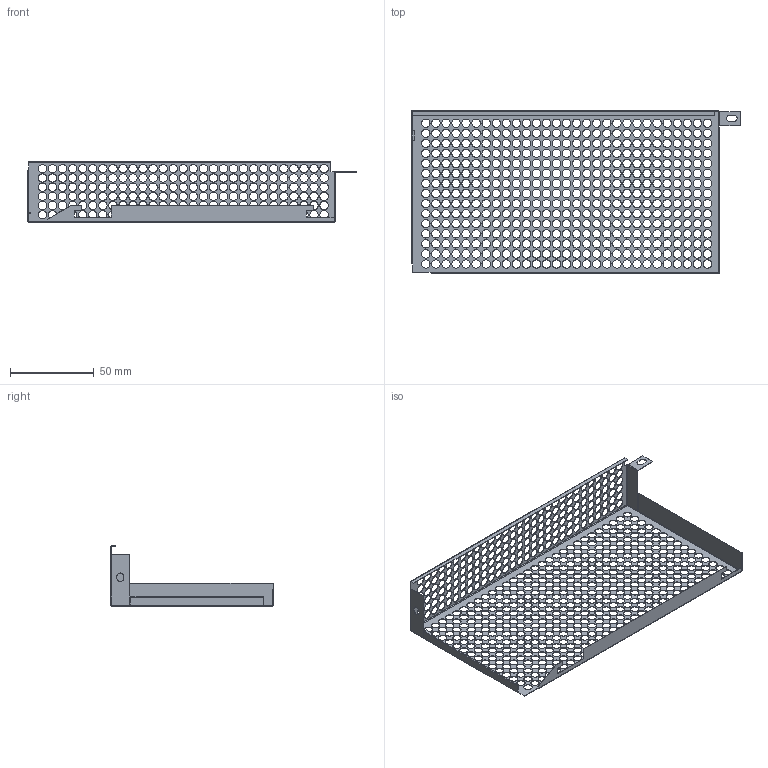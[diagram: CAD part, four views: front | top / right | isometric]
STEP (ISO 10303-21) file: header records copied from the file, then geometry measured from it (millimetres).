
FILE_DESCRIPTION(/* description */ (''),/* implementation_level */ '2;1');
FILE_NAME(/* name */ 'F:\file_Step\VO_2.stp',/* time_stamp */ '2019-10-03T16:26:34+07:00',/* author */ ('thanh'),/* organization */ (''),/* preprocessor_version */ 'ST-DEVELOPER v18',/* originating_system */ 'Autodesk Inventor 2020',/* authorisation */ '');
FILE_SCHEMA (('AUTOMOTIVE_DESIGN { 1 0 10303 214 3 1 1 }'));
Length unit declared in the file: millimetre
Products named in the file (1): VO_2
Bounding box: 196.2 x 97 x 36 mm (x, y, z)
Volume: 4895.2 mm3; surface area: 35739.8 mm2
Topology: 1 solids, 1 shells, 706 faces, 2057 edges, 1349 vertices
Faces by surface type: cylinder 630, plane 76
Full cylindrical faces by diameter (mm): 5 x609
Entity records: 27211 total; most frequent: DIRECTION 4731, ORIENTED_EDGE 4114, CARTESIAN_POINT 4113, EDGE_CURVE 2057, AXIS2_PLACEMENT_3D 1967, EDGE_LOOP 1928, VERTEX_POINT 1349, CIRCLE 1260
